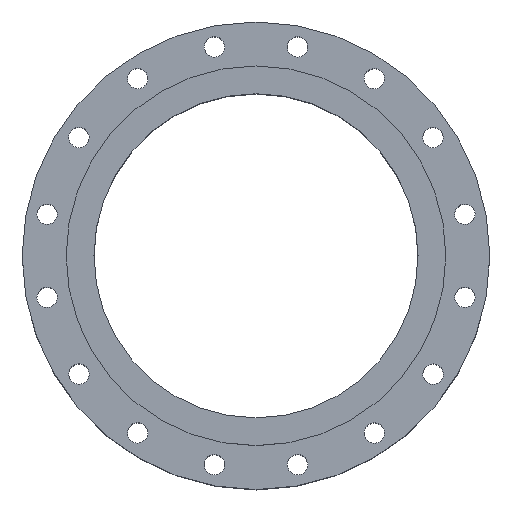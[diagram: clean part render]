
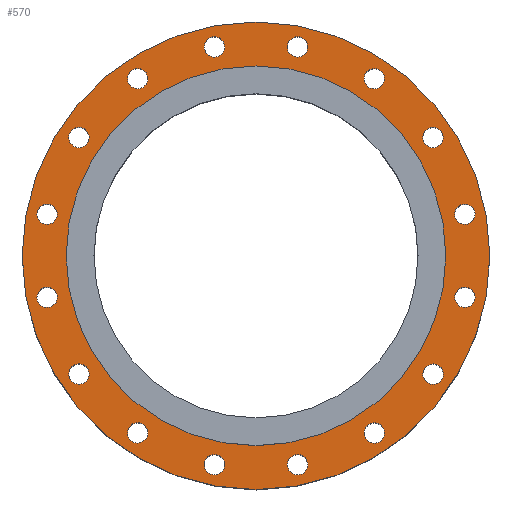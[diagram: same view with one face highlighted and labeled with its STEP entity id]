
A CAD part, top view. The second image highlights one B-rep face of the part: STEP entity #570.
In plain terms, the highlighted planar face has unit normal (0, 0, 1).
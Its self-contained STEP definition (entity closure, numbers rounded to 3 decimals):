
#570=ADVANCED_FACE('',(#1227,#1229,#1231,#1233,#1235,#1237,#1239,#1241,#1243,#1245,
#1247,#1249,#1251,#1253,#1255,#1257,#1259,#1261),#1263,.T.);
#1227=FACE_BOUND('',#1228,.T.);
#1228=EDGE_LOOP('',(#1588));
#1229=FACE_BOUND('',#1230,.T.);
#1230=EDGE_LOOP('',(#1589));
#1231=FACE_BOUND('',#1232,.T.);
#1232=EDGE_LOOP('',(#1590));
#1233=FACE_BOUND('',#1234,.T.);
#1234=EDGE_LOOP('',(#1591));
#1235=FACE_BOUND('',#1236,.T.);
#1236=EDGE_LOOP('',(#1592));
#1237=FACE_BOUND('',#1238,.T.);
#1238=EDGE_LOOP('',(#1593));
#1239=FACE_BOUND('',#1240,.T.);
#1240=EDGE_LOOP('',(#1594));
#1241=FACE_BOUND('',#1242,.T.);
#1242=EDGE_LOOP('',(#1595));
#1243=FACE_BOUND('',#1244,.T.);
#1244=EDGE_LOOP('',(#1596));
#1245=FACE_BOUND('',#1246,.T.);
#1246=EDGE_LOOP('',(#1597));
#1247=FACE_BOUND('',#1248,.T.);
#1248=EDGE_LOOP('',(#1598));
#1249=FACE_BOUND('',#1250,.T.);
#1250=EDGE_LOOP('',(#1599));
#1251=FACE_BOUND('',#1252,.T.);
#1252=EDGE_LOOP('',(#1600));
#1253=FACE_BOUND('',#1254,.T.);
#1254=EDGE_LOOP('',(#1601));
#1255=FACE_BOUND('',#1256,.T.);
#1256=EDGE_LOOP('',(#1602));
#1257=FACE_BOUND('',#1258,.T.);
#1258=EDGE_LOOP('',(#1603));
#1259=FACE_BOUND('',#1260,.T.);
#1260=EDGE_LOOP('',(#1604));
#1261=FACE_BOUND('',#1262,.T.);
#1262=EDGE_LOOP('',(#1605));
#1263=PLANE('',#1264);
#1264=AXIS2_PLACEMENT_3D('',#1265,#1266,#1267);
#1265=CARTESIAN_POINT('',(0.,0.,117.5));
#1266=DIRECTION('',(0.,0.,1.));
#1267=DIRECTION('',(0.,1.,0.));
#1588=ORIENTED_EDGE('',*,*,#1724,.F.);
#1589=ORIENTED_EDGE('',*,*,#1725,.T.);
#1590=ORIENTED_EDGE('',*,*,#1726,.T.);
#1591=ORIENTED_EDGE('',*,*,#1727,.T.);
#1592=ORIENTED_EDGE('',*,*,#1728,.T.);
#1593=ORIENTED_EDGE('',*,*,#1729,.T.);
#1594=ORIENTED_EDGE('',*,*,#1730,.T.);
#1595=ORIENTED_EDGE('',*,*,#1731,.T.);
#1596=ORIENTED_EDGE('',*,*,#1732,.T.);
#1597=ORIENTED_EDGE('',*,*,#1733,.T.);
#1598=ORIENTED_EDGE('',*,*,#1734,.T.);
#1599=ORIENTED_EDGE('',*,*,#1735,.T.);
#1600=ORIENTED_EDGE('',*,*,#1736,.T.);
#1601=ORIENTED_EDGE('',*,*,#1737,.T.);
#1602=ORIENTED_EDGE('',*,*,#1738,.T.);
#1603=ORIENTED_EDGE('',*,*,#1739,.T.);
#1604=ORIENTED_EDGE('',*,*,#1758,.T.);
#1605=ORIENTED_EDGE('',*,*,#1740,.T.);
#1724=EDGE_CURVE('',#1918,#1918,#1919,.T.);
#1725=EDGE_CURVE('',#1920,#1920,#1921,.T.);
#1726=EDGE_CURVE('',#1922,#1922,#1923,.T.);
#1727=EDGE_CURVE('',#1924,#1924,#1925,.T.);
#1728=EDGE_CURVE('',#1926,#1926,#1927,.T.);
#1729=EDGE_CURVE('',#1928,#1928,#1929,.T.);
#1730=EDGE_CURVE('',#1930,#1930,#1931,.T.);
#1731=EDGE_CURVE('',#1932,#1932,#1933,.T.);
#1732=EDGE_CURVE('',#1934,#1934,#1935,.T.);
#1733=EDGE_CURVE('',#1936,#1936,#1937,.T.);
#1734=EDGE_CURVE('',#1938,#1938,#1939,.T.);
#1735=EDGE_CURVE('',#1940,#1940,#1941,.T.);
#1736=EDGE_CURVE('',#1942,#1942,#1943,.T.);
#1737=EDGE_CURVE('',#1944,#1944,#1945,.T.);
#1738=EDGE_CURVE('',#1946,#1946,#1947,.T.);
#1739=EDGE_CURVE('',#1948,#1948,#1949,.T.);
#1740=EDGE_CURVE('',#1950,#1950,#1951,.T.);
#1758=EDGE_CURVE('',#1986,#1986,#1987,.T.);
#1918=VERTEX_POINT('',#3351);
#1919=CIRCLE('',#3352,252.5);
#1920=VERTEX_POINT('',#3356);
#1921=CIRCLE('',#3357,11.);
#1922=VERTEX_POINT('',#3361);
#1923=CIRCLE('',#3362,11.);
#1924=VERTEX_POINT('',#3366);
#1925=CIRCLE('',#3367,11.);
#1926=VERTEX_POINT('',#3371);
#1927=CIRCLE('',#3372,11.);
#1928=VERTEX_POINT('',#3376);
#1929=CIRCLE('',#3377,11.);
#1930=VERTEX_POINT('',#3381);
#1931=CIRCLE('',#3382,11.);
#1932=VERTEX_POINT('',#3386);
#1933=CIRCLE('',#3387,11.);
#1934=VERTEX_POINT('',#3391);
#1935=CIRCLE('',#3392,11.);
#1936=VERTEX_POINT('',#3396);
#1937=CIRCLE('',#3397,11.);
#1938=VERTEX_POINT('',#3401);
#1939=CIRCLE('',#3402,11.);
#1940=VERTEX_POINT('',#3406);
#1941=CIRCLE('',#3407,11.);
#1942=VERTEX_POINT('',#3411);
#1943=CIRCLE('',#3412,11.);
#1944=VERTEX_POINT('',#3416);
#1945=CIRCLE('',#3417,11.);
#1946=VERTEX_POINT('',#3421);
#1947=CIRCLE('',#3422,11.);
#1948=VERTEX_POINT('',#3426);
#1949=CIRCLE('',#3427,11.);
#1950=VERTEX_POINT('',#3431);
#1951=CIRCLE('',#3432,11.);
#1986=VERTEX_POINT('',#3521);
#1987=CIRCLE('',#3522,205.);
#3351=CARTESIAN_POINT('',(0.,252.5,117.5));
#3352=AXIS2_PLACEMENT_3D('',#3353,#3354,#3355);
#3353=CARTESIAN_POINT('',(0.,0.,117.5));
#3354=DIRECTION('',(0.,0.,-1.));
#3355=DIRECTION('',(0.,1.,0.));
#3356=CARTESIAN_POINT('',(117.618,195.448,117.5));
#3357=AXIS2_PLACEMENT_3D('',#3358,#3359,#3360);
#3358=CARTESIAN_POINT('',(127.781,191.238,117.5));
#3359=DIRECTION('',(0.,0.,-1.));
#3360=DIRECTION('',(-0.924,0.383,0.));
#3361=CARTESIAN_POINT('',(183.46,135.559,117.5));
#3362=AXIS2_PLACEMENT_3D('',#3363,#3364,#3365);
#3363=CARTESIAN_POINT('',(191.238,127.781,117.5));
#3364=DIRECTION('',(0.,0.,-1.));
#3365=DIRECTION('',(-0.707,0.707,0.));
#3366=CARTESIAN_POINT('',(221.371,55.033,117.5));
#3367=AXIS2_PLACEMENT_3D('',#3368,#3369,#3370);
#3368=CARTESIAN_POINT('',(225.581,44.871,117.5));
#3369=DIRECTION('',(0.,0.,-1.));
#3370=DIRECTION('',(-0.383,0.924,0.));
#3371=CARTESIAN_POINT('',(225.581,-33.871,117.5));
#3372=AXIS2_PLACEMENT_3D('',#3373,#3374,#3375);
#3373=CARTESIAN_POINT('',(225.581,-44.871,117.5));
#3374=DIRECTION('',(0.,0.,-1.));
#3375=DIRECTION('',(0.,1.,0.));
#3376=CARTESIAN_POINT('',(195.448,-117.618,117.5));
#3377=AXIS2_PLACEMENT_3D('',#3378,#3379,#3380);
#3378=CARTESIAN_POINT('',(191.238,-127.781,117.5));
#3379=DIRECTION('',(0.,0.,-1.));
#3380=DIRECTION('',(0.383,0.924,0.));
#3381=CARTESIAN_POINT('',(135.559,-183.46,117.5));
#3382=AXIS2_PLACEMENT_3D('',#3383,#3384,#3385);
#3383=CARTESIAN_POINT('',(127.781,-191.238,117.5));
#3384=DIRECTION('',(0.,0.,-1.));
#3385=DIRECTION('',(0.707,0.707,0.));
#3386=CARTESIAN_POINT('',(55.033,-221.371,117.5));
#3387=AXIS2_PLACEMENT_3D('',#3388,#3389,#3390);
#3388=CARTESIAN_POINT('',(44.871,-225.581,117.5));
#3389=DIRECTION('',(0.,0.,-1.));
#3390=DIRECTION('',(0.924,0.383,0.));
#3391=CARTESIAN_POINT('',(-33.871,-225.581,117.5));
#3392=AXIS2_PLACEMENT_3D('',#3393,#3394,#3395);
#3393=CARTESIAN_POINT('',(-44.871,-225.581,117.5));
#3394=DIRECTION('',(0.,0.,-1.));
#3395=DIRECTION('',(1.,0.,0.));
#3396=CARTESIAN_POINT('',(-117.618,-195.448,117.5));
#3397=AXIS2_PLACEMENT_3D('',#3398,#3399,#3400);
#3398=CARTESIAN_POINT('',(-127.781,-191.238,117.5));
#3399=DIRECTION('',(0.,0.,-1.));
#3400=DIRECTION('',(0.924,-0.383,0.));
#3401=CARTESIAN_POINT('',(-183.46,-135.559,117.5));
#3402=AXIS2_PLACEMENT_3D('',#3403,#3404,#3405);
#3403=CARTESIAN_POINT('',(-191.238,-127.781,117.5));
#3404=DIRECTION('',(0.,0.,-1.));
#3405=DIRECTION('',(0.707,-0.707,0.));
#3406=CARTESIAN_POINT('',(-221.371,-55.033,117.5));
#3407=AXIS2_PLACEMENT_3D('',#3408,#3409,#3410);
#3408=CARTESIAN_POINT('',(-225.581,-44.871,117.5));
#3409=DIRECTION('',(0.,0.,-1.));
#3410=DIRECTION('',(0.383,-0.924,0.));
#3411=CARTESIAN_POINT('',(-225.581,33.871,117.5));
#3412=AXIS2_PLACEMENT_3D('',#3413,#3414,#3415);
#3413=CARTESIAN_POINT('',(-225.581,44.871,117.5));
#3414=DIRECTION('',(0.,0.,-1.));
#3415=DIRECTION('',(0.,-1.,0.));
#3416=CARTESIAN_POINT('',(-195.448,117.618,117.5));
#3417=AXIS2_PLACEMENT_3D('',#3418,#3419,#3420);
#3418=CARTESIAN_POINT('',(-191.238,127.781,117.5));
#3419=DIRECTION('',(0.,0.,-1.));
#3420=DIRECTION('',(-0.383,-0.924,0.));
#3421=CARTESIAN_POINT('',(-135.559,183.46,117.5));
#3422=AXIS2_PLACEMENT_3D('',#3423,#3424,#3425);
#3423=CARTESIAN_POINT('',(-127.781,191.238,117.5));
#3424=DIRECTION('',(0.,0.,-1.));
#3425=DIRECTION('',(-0.707,-0.707,0.));
#3426=CARTESIAN_POINT('',(-55.033,221.371,117.5));
#3427=AXIS2_PLACEMENT_3D('',#3428,#3429,#3430);
#3428=CARTESIAN_POINT('',(-44.871,225.581,117.5));
#3429=DIRECTION('',(0.,0.,-1.));
#3430=DIRECTION('',(-0.924,-0.383,0.));
#3431=CARTESIAN_POINT('',(33.871,225.581,117.5));
#3432=AXIS2_PLACEMENT_3D('',#3433,#3434,#3435);
#3433=CARTESIAN_POINT('',(44.871,225.581,117.5));
#3434=DIRECTION('',(0.,0.,-1.));
#3435=DIRECTION('',(-1.,0.,0.));
#3521=CARTESIAN_POINT('',(0.,205.,117.5));
#3522=AXIS2_PLACEMENT_3D('',#3523,#3524,#3525);
#3523=CARTESIAN_POINT('',(0.,0.,117.5));
#3524=DIRECTION('',(0.,0.,-1.));
#3525=DIRECTION('',(0.,1.,0.));
